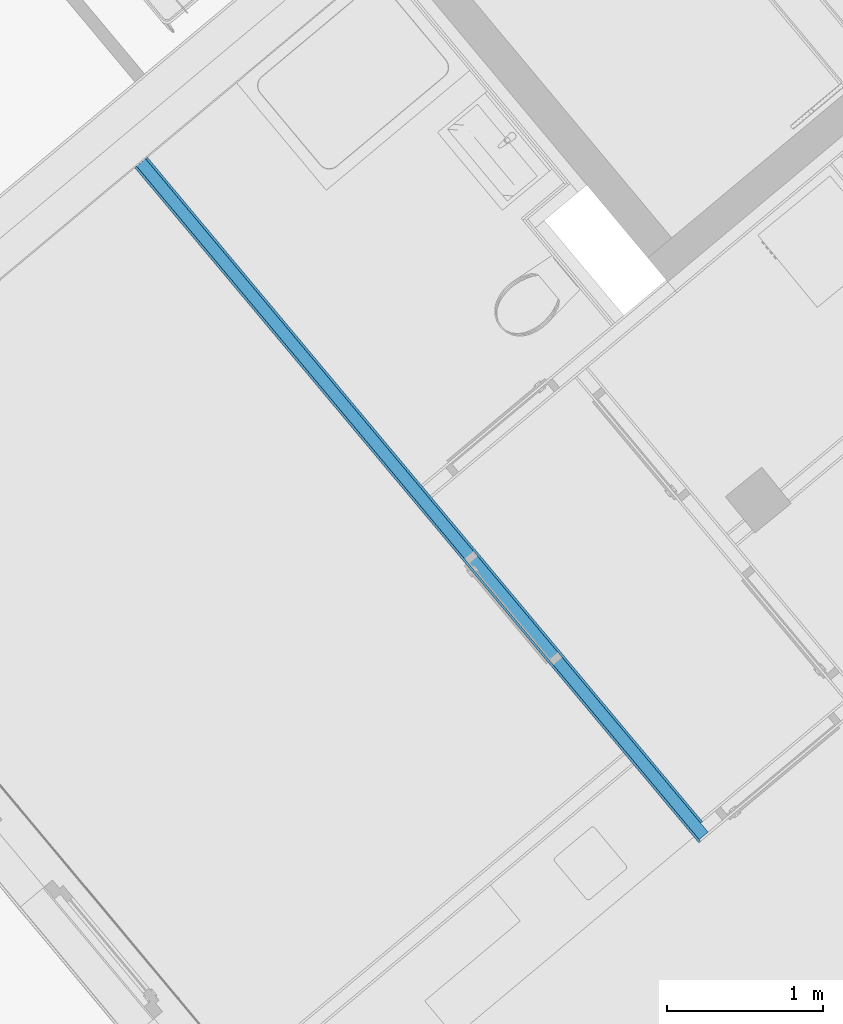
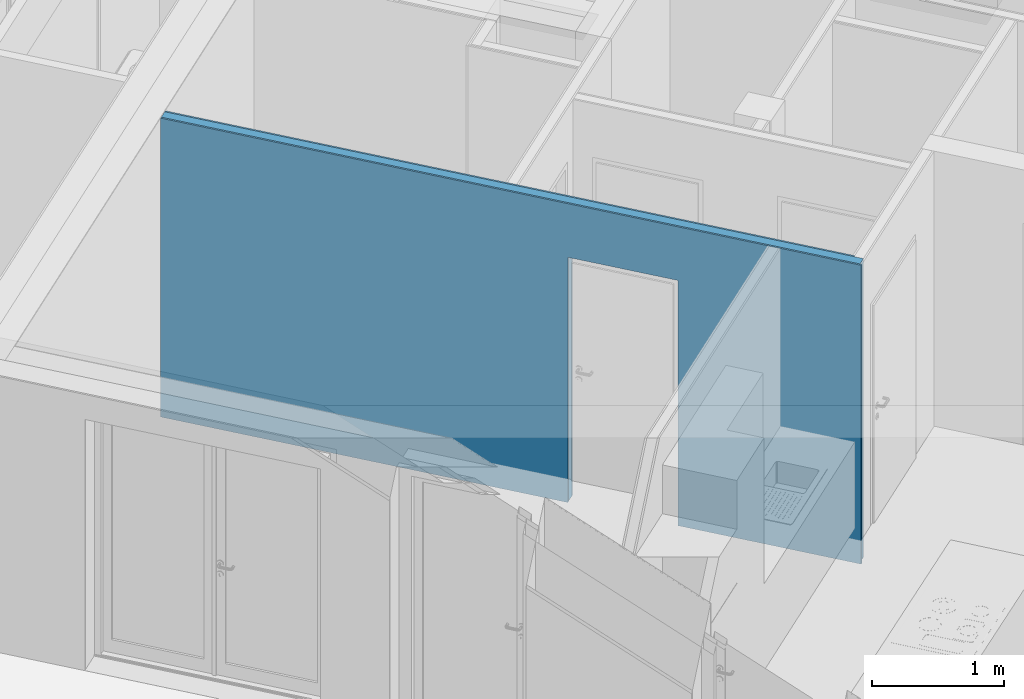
# One storey, part 2 of 75: 3 building element parts, 1 opening, 1 element without a shape of its own.
"""IFC4 building model written with IfcOpenShell, lengths in metres."""

import ifcopenshell
import ifcopenshell.guid

model = None  # the IFC model being written
_history = None  # IfcOwnerHistory: only IFC2X3 demands one
_inside = {}  # id of a spatial element -> (the spatial element, [elements in it])
_under = {}  # id of a project, library or spatial element -> (it, [spatial elements below it])
_declared = {}  # id of a project -> (the project, [libraries it declares])
_typed = {}  # id of a type object -> (the type object, [elements of that type])
_made_of = {}  # id of a material, layer set ... -> (it, [elements and type objects made of it])


def new_model(schema):
    """Start an empty IFC model of exactly this schema.

    Asked for "IFC4X3", IfcOpenShell would pick the latest addendum, in which some entities
    have other attributes; the version numbers below select the first issue.
    IFC2X3 requires an IfcOwnerHistory on every rooted entity: one is made here for all.
    """
    global model, _history
    if schema == "IFC4X3":
        model = ifcopenshell.file(schema_version=(4, 3, 0, 0))
    else:
        model = ifcopenshell.file(schema=schema)
    _inside.clear()
    _under.clear()
    _declared.clear()
    _typed.clear()
    _made_of.clear()
    _history = None
    if model.schema == "IFC2X3":
        org = make("IfcOrganization", Name="unknown")
        user = make(
            "IfcPersonAndOrganization",
            ThePerson=make("IfcPerson", FamilyName="unknown"),
            TheOrganization=org,
        )
        app = make(
            "IfcApplication",
            ApplicationDeveloper=org,
            Version="unknown",
            ApplicationFullName="unknown",
            ApplicationIdentifier="unknown",
        )
        _history = make(
            "IfcOwnerHistory",
            OwningUser=user,
            OwningApplication=app,
            ChangeAction="ADDED",
            CreationDate=0,
        )
    return model


def make(cls, **values):
    """One entity of the class cls with the attributes given. An attribute that is None is left unset."""
    return model.create_entity(
        cls, **{name: value for name, value in values.items() if value is not None}
    )


def entity(cls, *values):
    """Any entity or typed value of the class cls, its attributes in the order of the schema. None: left unset."""
    e = model.create_entity(cls)
    for i, value in enumerate(values):
        if value is not None:
            e[i] = value
    return e


def rooted(cls, **values):
    """An entity with a GlobalId (a new one), such as an element, a storey or a relation."""
    return make(cls, GlobalId=ifcopenshell.guid.new(), OwnerHistory=_history, **values)


def si_unit(unit_type, name, prefix=None):
    """IfcSIUnit, for example si_unit("LENGTHUNIT", "METRE", prefix="MILLI")."""
    return make("IfcSIUnit", UnitType=unit_type, Prefix=prefix, Name=name)


def converted_unit(unit_type, name, factor, base, dimensions=None, offset=None):
    """IfcConversionBasedUnit, such as the inch: factor (a typed value) times the base unit."""
    return make(
        "IfcConversionBasedUnit"
        if offset is None
        else "IfcConversionBasedUnitWithOffset",
        ConversionOffset=offset,
        Dimensions=None
        if dimensions is None
        else entity("IfcDimensionalExponents", *dimensions),
        UnitType=unit_type,
        Name=name,
        ConversionFactor=make(
            "IfcMeasureWithUnit", ValueComponent=factor, UnitComponent=base
        ),
    )


def derived_unit(unit_type, elements):
    """IfcDerivedUnit: a product of units, each with its exponent."""
    return make(
        "IfcDerivedUnit",
        Elements=[
            make("IfcDerivedUnitElement", Unit=unit, Exponent=power)
            for unit, power in elements
        ],
        UnitType=unit_type,
    )


def assignment(units):
    """IfcUnitAssignment: the units of a project."""
    return None if units is None else make("IfcUnitAssignment", Units=units)


def point(xyz):
    """IfcCartesianPoint."""
    return None if xyz is None else make("IfcCartesianPoint", Coordinates=xyz)


def direction(xyz):
    """IfcDirection."""
    return None if xyz is None else make("IfcDirection", DirectionRatios=xyz)


def frame(location, z_axis=None, x_axis=None):
    """IfcAxis2Placement3D, a coordinate frame: its origin and axes. An axis left out is left unset."""
    return make(
        "IfcAxis2Placement3D",
        Location=point(location),
        Axis=direction(z_axis),
        RefDirection=direction(x_axis),
    )


def origin_with_axes():
    """The frame at (0, 0, 0) with the z axis (0, 0, 1) and the x axis (1, 0, 0) written out."""
    return frame((0.0, 0.0, 0.0), z_axis=(0.0, 0.0, 1.0), x_axis=(1.0, 0.0, 0.0))


def place(relative_to, where):
    """IfcLocalPlacement: puts the frame where relative to a parent placement (None: the world)."""
    return make(
        "IfcLocalPlacement", PlacementRelTo=relative_to, RelativePlacement=where
    )


def context(
    kind, dimensions, precision=None, world=None, true_north=None, identifier=None
):
    """IfcGeometricRepresentationContext, for example the 3D "Model" context."""
    return make(
        "IfcGeometricRepresentationContext",
        ContextIdentifier=identifier,
        ContextType=kind,
        CoordinateSpaceDimension=dimensions,
        Precision=precision,
        WorldCoordinateSystem=world,
        TrueNorth=true_north,
    )


def subcontext(parent, identifier, kind, view, scale=None):
    """IfcGeometricRepresentationSubContext, for example "Body" below "Model"."""
    return make(
        "IfcGeometricRepresentationSubContext",
        ContextIdentifier=identifier,
        ContextType=kind,
        ParentContext=parent,
        TargetScale=scale,
        TargetView=view,
    )


def project(units=None, contexts=None):
    """IfcProject with its units and contexts."""
    return rooted(
        "IfcProject",
        Name="project",
        RepresentationContexts=contexts,
        UnitsInContext=assignment(units),
    )


def spatial(cls, under=None, at=None, **own):
    """A site, building, storey or space (cls), placed at a placement, below another one or the project."""
    s = rooted(cls, ObjectPlacement=at, **own)
    if under is not None:
        _under.setdefault(under.id(), (under, []))[1].append(s)
    return s


def point_list(points):
    """IfcCartesianPointList2D or 3D."""
    cls = (
        "IfcCartesianPointList2D" if len(points[0]) == 2 else "IfcCartesianPointList3D"
    )
    return make(cls, CoordList=points)


def polygons(points, faces, closed=None, point_numbers=None):
    """IfcPolygonalFaceSet: a face is its outer loop, then its inner loops; points numbered from 1."""
    made = []
    for loops in faces:
        if len(loops) == 1:
            made.append(make("IfcIndexedPolygonalFace", CoordIndex=loops[0]))
        else:
            made.append(
                make(
                    "IfcIndexedPolygonalFaceWithVoids",
                    CoordIndex=loops[0],
                    InnerCoordIndices=loops[1:],
                )
            )
    return make(
        "IfcPolygonalFaceSet",
        Coordinates=point_list(points),
        Closed=closed,
        Faces=made,
        PnIndex=point_numbers,
    )


def shape(context_of_items, identifier, shape_type, items):
    """IfcShapeRepresentation: the items that make up one representation, for example the "Body"."""
    return make(
        "IfcShapeRepresentation",
        ContextOfItems=context_of_items,
        RepresentationIdentifier=identifier,
        RepresentationType=shape_type,
        Items=items,
    )


def material(Name=None, Category=None):
    """IfcMaterial."""
    return make("IfcMaterial", Name=Name, Category=Category)


def made_of(thing, what):
    """Note that an element or type object is made of a material, layer set ...; save() writes the relation."""
    if what is not None:
        _made_of.setdefault(what.id(), (what, []))[1].append(thing)
    return thing


def type_object(cls, material=None, **own):
    """A type object (cls), such as IfcWallType, which elements share."""
    return made_of(rooted(cls, **own), material)


def element(
    cls,
    number,
    at=None,
    inside=None,
    cuts=None,
    type_object=None,
    material=None,
    context=None,
    identifier="Body",
    shape_type=None,
    held_by="IfcProductDefinitionShape",
    body=None,
    shapes=None,
    **own,
):
    """One element of the class cls, such as IfcWall. Its Tag is "e" and its number.

    at: its placement. inside: the storey or other place that contains it. cuts: it is an
    opening in that element (IfcRelVoidsElement). A single representation is given by context,
    identifier, shape_type and body (its items); several are given by shapes. held_by: the class
    of the entity that holds the representations. save() writes the other relations.
    """
    e = rooted(cls, Tag="e%d" % number, ObjectPlacement=at, **own)
    if body is not None:
        shapes = [shape(context, identifier, shape_type, body)]
    if shapes is not None:
        e.Representation = make(held_by, Representations=shapes)
    if inside is not None:
        _inside.setdefault(inside.id(), (inside, []))[1].append(e)
    if cuts is not None:
        rooted(
            "IfcRelVoidsElement", RelatingBuildingElement=cuts, RelatedOpeningElement=e
        )
    if type_object is not None:
        _typed.setdefault(type_object.id(), (type_object, []))[1].append(e)
    return made_of(e, material)


def aggregate(whole, parts):
    """IfcRelAggregates: a whole, such as a stair, and the parts it consists of."""
    return rooted("IfcRelAggregates", RelatingObject=whole, RelatedObjects=parts)


def save(model, path):
    """Write the relations noted so far, then the file.

    IfcRelAggregates (storeys below a building ...), IfcRelContainedInSpatialStructure (elements
    in a storey), IfcRelDefinesByType, IfcRelAssociatesMaterial and IfcRelDeclares: one each for
    every whole, place, type object, material and project.
    """
    for whole, parts in _under.values():
        aggregate(whole, parts)
    for where, things in _inside.values():
        rooted(
            "IfcRelContainedInSpatialStructure",
            RelatedElements=things,
            RelatingStructure=where,
        )
    for kind, things in _typed.values():
        rooted("IfcRelDefinesByType", RelatedObjects=things, RelatingType=kind)
    for what, things in _made_of.values():
        rooted("IfcRelAssociatesMaterial", RelatedObjects=things, RelatingMaterial=what)
    for by, libraries in _declared.values():
        rooted("IfcRelDeclares", RelatingContext=by, RelatedDefinitions=libraries)
    model.write(path)


model = new_model("IFC4")

# Units and contexts
model_context = context("Model", 3, precision=1e-05, world=origin_with_axes(), true_north=direction((0.0, 1.0)))
body_context = subcontext(model_context, "Body", "Model", "MODEL_VIEW")
ifc_project = project(units=[si_unit("LENGTHUNIT", "METRE"), si_unit("AREAUNIT", "SQUARE_METRE"), si_unit("VOLUMEUNIT", "CUBIC_METRE"), converted_unit("PLANEANGLEUNIT", "DEGREE", entity("IfcPlaneAngleMeasure", 0.0174532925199), si_unit("PLANEANGLEUNIT", "RADIAN"), dimensions=[0, 0, 0, 0, 0, 0, 0]), converted_unit("TIMEUNIT", "Year", entity("IfcTimeMeasure", 31556926.0), si_unit("TIMEUNIT", "SECOND"), dimensions=[0, 0, 1, 0, 0, 0, 0]), si_unit("MASSUNIT", "GRAM", prefix="KILO"), si_unit("THERMODYNAMICTEMPERATUREUNIT", "DEGREE_CELSIUS"), si_unit("LUMINOUSINTENSITYUNIT", "LUMEN"), si_unit("ENERGYUNIT", "JOULE", prefix="MEGA"), derived_unit("THERMALCONDUCTANCEUNIT", [(si_unit("POWERUNIT", "WATT"), 1), (si_unit("LENGTHUNIT", "METRE"), -1), (si_unit("THERMODYNAMICTEMPERATUREUNIT", "KELVIN"), -1)]), derived_unit("SPECIFICHEATCAPACITYUNIT", [(si_unit("ENERGYUNIT", "JOULE"), 1), (si_unit("MASSUNIT", "GRAM", prefix="KILO"), -1), (si_unit("THERMODYNAMICTEMPERATUREUNIT", "KELVIN"), -1)]), derived_unit("MASSDENSITYUNIT", [(si_unit("MASSUNIT", "GRAM", prefix="KILO"), 1), (si_unit("VOLUMEUNIT", "CUBIC_METRE"), -1)])], contexts=[model_context])

# Site, building, storey
site_placement = place(None, frame((-0.00153261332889, -0.00661245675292, 0.0), z_axis=(0.0, 0.0, 1.0), x_axis=(1.0, 0.0, 0.0)))
site = spatial("IfcSite", under=ifc_project, at=site_placement, Name="Gelände", CompositionType="ELEMENT")
building_placement = place(site_placement, origin_with_axes())
building = spatial("IfcBuilding", under=site, at=building_placement, Name="Gebäude", CompositionType="ELEMENT")
storey_placement = place(building_placement, frame((0.0, 0.0, -0.22), z_axis=(0.0, 0.0, 1.0), x_axis=(1.0, 0.0, 0.0)))
storey = spatial("IfcBuildingStorey", under=building, at=storey_placement, Name="EG", CompositionType="ELEMENT", Elevation=-0.22)

# Wall, opening, building element parts
wall_type = type_object("IfcWallType", Name="IW LB 01 Leichtbautrennwand einfach 10,5 cm 105", PredefinedType="NOTDEFINED")
wall_placement = place(storey_placement, frame((-5.90501544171, 21.3396701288, 0.0), z_axis=(0.0, 0.0, 1.0), x_axis=(0.641209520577, -0.767365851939, 0.0)))
wall = element("IfcWall", 1, at=wall_placement, inside=storey, type_object=wall_type, Name="Wand-012", PredefinedType="NOTDEFINED")
opening_placement = place(wall_placement, frame((4.14617434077, 0.0, 0.22), z_axis=(0.0, 0.0, 1.0), x_axis=(1.0, 0.0, 0.0)))
element("IfcOpeningElement", 2, at=opening_placement, cuts=wall, Name="Tür-016", context=body_context, identifier="Reference", shape_type="Tessellation", body=[
    polygons([(0.445, 3.03878643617, 2.045), (0.445, 3.03878643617, -0.22), (-0.445, 3.03878643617, -0.22), (-0.445, 3.03878643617, 2.045), (0.445, -2.93378643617, 2.045), (0.445, -2.93378643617, -0.22), (-0.445, -2.93378643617, -0.22), (-0.445, -2.93378643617, 2.045)], [[[1, 2, 3, 4]], [[5, 6, 2, 1]], [[6, 7, 3, 2]], [[7, 8, 4, 3]], [[8, 5, 1, 4]], [[7, 6, 5, 8]]], closed=True),
])
ifc_material_1 = material(Name="Gipskarton")
building_element_part_1_placement = place(wall_placement, origin_with_axes())
building_element_part_1 = element("IfcBuildingElementPart", 3, at=building_element_part_1_placement, material=ifc_material_1, Name="Gipskarton", PredefinedType="NOTDEFINED", context=body_context, shape_type="Tessellation", body=[
    polygons([(3.70117434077, 0.105, 2.265), (3.70117434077, 0.105, 0.22), (3.7011743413, 0.105, 0.0), (0.419999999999, 0.105, 0.0), (0.419999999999, 0.105, 2.76), (5.97543570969, 0.105, 2.76), (5.97543570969, 0.105, 0.0), (4.59117434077, 0.105, 0.0), (4.59117434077, 0.105, 0.22), (4.59117434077, 0.105, 2.265), (3.70117434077, 0.09, 2.265), (3.70117434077, 0.09, 0.22), (3.70117434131, 0.09, 0.0), (0.419999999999, 0.09, 0.0), (0.419999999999, 0.09, 2.76), (5.97543570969, 0.09, 2.76), (5.97543570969, 0.09, 0.0), (4.59117434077, 0.09, 0.0), (4.59117434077, 0.09, 0.22), (4.59117434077, 0.09, 2.265)], [[[1, 2, 3, 4, 5, 6, 7, 8, 9, 10]], [[2, 1, 11, 12]], [[2, 12, 13, 3]], [[13, 14, 4, 3]], [[5, 4, 14, 15]], [[6, 5, 15, 16]], [[16, 17, 7, 6]], [[8, 7, 17, 18]], [[19, 9, 8, 18]], [[10, 9, 19, 20]], [[1, 10, 20, 11]], [[20, 19, 18, 17, 16, 15, 14, 13, 12, 11]]], closed=True),
])
ifc_material_2 = material(Name="Mineralwolle weich")
building_element_part_2_placement = place(wall_placement, origin_with_axes())
building_element_part_2 = element("IfcBuildingElementPart", 4, at=building_element_part_2_placement, material=ifc_material_2, Name="Mineralwolle weich", PredefinedType="NOTDEFINED", context=body_context, shape_type="Tessellation", body=[
    polygons([(3.70117434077, 0.09, 2.265), (3.70117434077, 0.09, 0.22), (3.70117434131, 0.09, 0.0), (0.419999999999, 0.09, 0.0), (0.419999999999, 0.09, 2.76), (6.05043570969, 0.09, 2.76), (6.05043570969, 0.09, 0.0), (4.59117434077, 0.09, 0.0), (4.59117434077, 0.09, 0.22), (4.59117434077, 0.09, 2.265), (3.70117434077, 0.015, 2.265), (3.70117434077, 0.015, 0.22), (3.70117434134, 0.015, 0.0), (0.419999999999, 0.015, 0.0), (0.419999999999, 0.015, 2.76), (6.0504357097, 0.015, 2.76), (6.0504357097, 0.015, 0.0), (4.59117434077, 0.015, 0.0), (4.59117434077, 0.015, 0.22), (4.59117434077, 0.015, 2.265)], [[[1, 2, 3, 4, 5, 6, 7, 8, 9, 10]], [[2, 1, 11, 12]], [[2, 12, 13, 3]], [[13, 14, 4, 3]], [[5, 4, 14, 15]], [[6, 5, 15, 16]], [[16, 17, 7, 6]], [[8, 7, 17, 18]], [[19, 9, 8, 18]], [[10, 9, 19, 20]], [[1, 10, 20, 11]], [[20, 19, 18, 17, 16, 15, 14, 13, 12, 11]]], closed=True),
])
building_element_part_3_placement = place(wall_placement, origin_with_axes())
building_element_part_3 = element("IfcBuildingElementPart", 5, at=building_element_part_3_placement, material=ifc_material_1, Name="Gipskarton", PredefinedType="NOTDEFINED", context=body_context, shape_type="Tessellation", body=[
    polygons([(3.70117434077, 0.015, 2.265), (3.70117434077, 0.015, 0.22), (3.70117434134, 0.015, 0.0), (0.419999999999, 0.015, 0.0), (0.419999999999, 0.015, 2.76), (6.0654357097, 0.015, 2.76), (6.0654357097, 0.015, 0.0), (4.59117434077, 0.015, 0.0), (4.59117434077, 0.015, 0.22), (4.59117434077, 0.015, 2.265), (3.70117434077, -2.18705835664e-08, 2.265), (3.70117434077, -2.35908643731e-08, 0.22), (3.70117434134, -2.35908661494e-08, 0.0), (0.419999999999, 0.0, 0.0), (0.419999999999, 0.0, 2.76), (6.0654357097, 0.0, 2.76), (6.0654357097, 0.0, 0.0), (4.59117434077, -2.18705853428e-08, 0.0), (4.59117434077, -2.18705835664e-08, 0.22), (4.59117434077, -2.18705835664e-08, 2.265)], [[[1, 2, 3, 4, 5, 6, 7, 8, 9, 10]], [[2, 1, 11, 12]], [[2, 12, 13, 3]], [[13, 14, 4, 3]], [[5, 4, 14, 15]], [[6, 5, 15, 16]], [[16, 17, 7, 6]], [[8, 7, 17, 18]], [[19, 9, 8, 18]], [[10, 9, 19, 20]], [[1, 10, 20, 11]], [[20, 19, 18, 17, 16, 15, 14, 13, 12, 11]]], closed=True),
])
aggregate(wall, [building_element_part_1, building_element_part_2, building_element_part_3])

save(model, "model.ifc")
